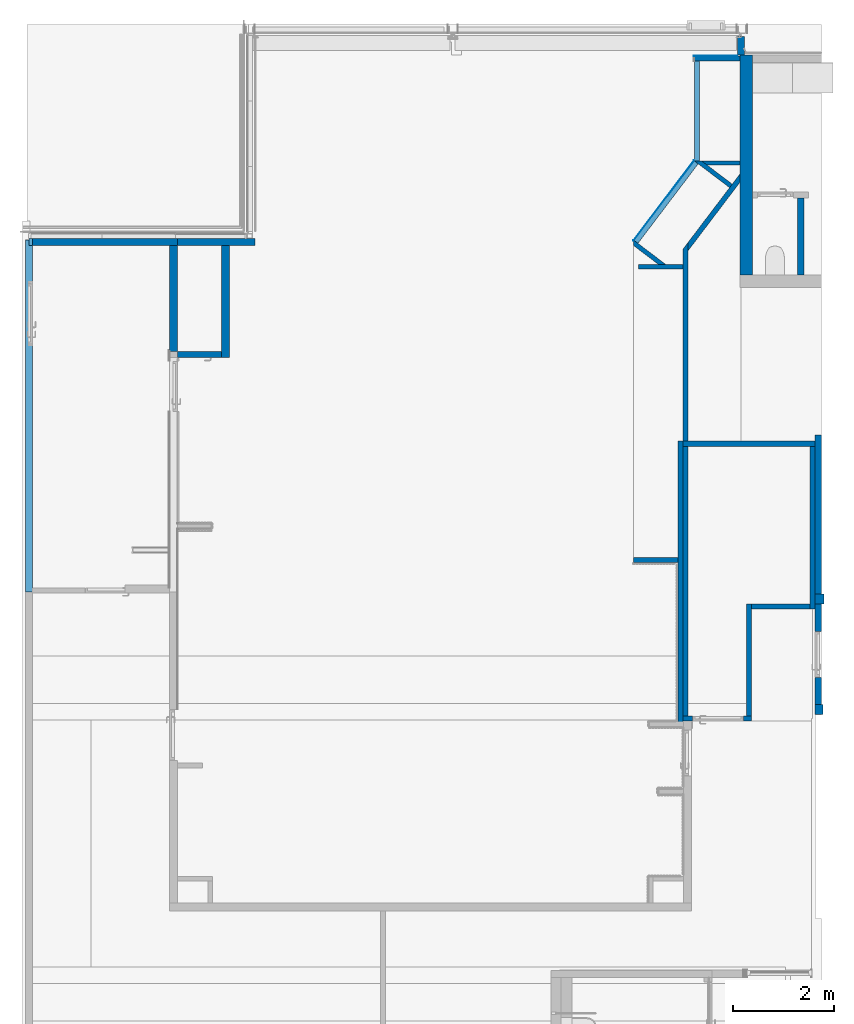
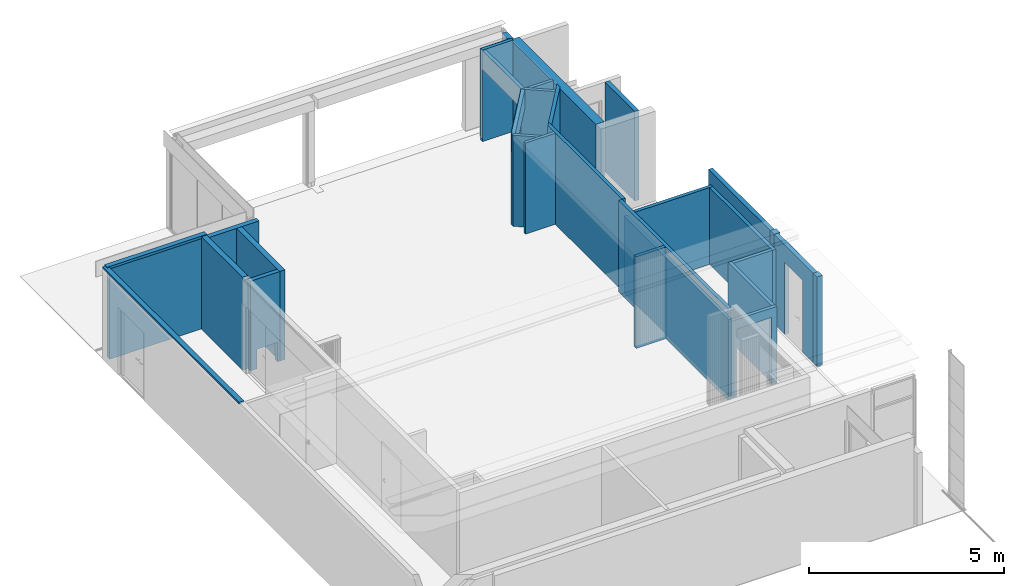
# One storey, part 24 of 37: 33 walls, 3 openings.
"""IFC2X3 building model written with IfcOpenShell, lengths in millimetres."""

from ifc_helpers import new_model, entity, si_unit, converted_unit, derived_unit, direction, frame, frame_2d, origin, origin_with_axes, place, context, subcontext, project, spatial, polyline, rectangle, outline, extrude, clip, halfspace, material, layer, layer_set, layer_usage, type_object, element, save


model = new_model("IFC2X3")

# Units and contexts
model_context = context("Model", 3, precision=0.01, world=frame((0.0, 4.29681676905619e-09, 0.0)), true_north=direction((4.01073788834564e-13, 1.0)))
plan_context = context("Plan", 3, precision=0.01, world=frame((0.0, 4.29681676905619e-09, 0.0)), true_north=direction((4.01073788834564e-13, 1.0)))
body_context = subcontext(model_context, "Body", "Model", "MODEL_VIEW")
ifc_project = project(units=[converted_unit("PLANEANGLEUNIT", "DEGREE", entity("IfcPositiveLengthMeasure", 0.0174532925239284), si_unit("PLANEANGLEUNIT", "RADIAN"), dimensions=[0, 0, 0, 0, 0, 0, 0]), si_unit("AREAUNIT", "SQUARE_METRE"), si_unit("LENGTHUNIT", "METRE", prefix="MILLI"), si_unit("MASSUNIT", "GRAM", prefix="KILO"), si_unit("POWERUNIT", "WATT"), si_unit("PRESSUREUNIT", "PASCAL"), si_unit("FORCEUNIT", "NEWTON", prefix="KILO"), si_unit("ELECTRICVOLTAGEUNIT", "VOLT"), si_unit("ELECTRICCURRENTUNIT", "AMPERE"), si_unit("THERMODYNAMICTEMPERATUREUNIT", "DEGREE_CELSIUS"), si_unit("TIMEUNIT", "SECOND"), si_unit("VOLUMEUNIT", "CUBIC_METRE"), derived_unit("LINEARVELOCITYUNIT", [(si_unit("LENGTHUNIT", "METRE"), 1), (si_unit("TIMEUNIT", "SECOND"), -1)]), derived_unit("VOLUMETRICFLOWRATEUNIT", [(si_unit("VOLUMEUNIT", "CUBIC_METRE"), 1), (si_unit("TIMEUNIT", "SECOND"), -1)]), derived_unit("THERMALTRANSMITTANCEUNIT", [(si_unit("POWERUNIT", "WATT"), 1), (si_unit("THERMODYNAMICTEMPERATUREUNIT", "KELVIN"), -1), (si_unit("AREAUNIT", "SQUARE_METRE"), -1)]), derived_unit("SOUNDPRESSUREUNIT", [(si_unit("PRESSUREUNIT", "PASCAL"), 1)])], contexts=[model_context, plan_context])

# Site, building, storey
site_placement = place(None, origin_with_axes())
site = spatial("IfcSite", under=ifc_project, at=site_placement, Name="ENGM", CompositionType="ELEMENT")
building_placement = place(site_placement, origin_with_axes())
building = spatial("IfcBuilding", under=site, at=building_placement, Name="TS", CompositionType="ELEMENT")
storey_placement = place(building_placement, frame((0.0, 0.0, 210900.0), z_axis=(0.0, 0.0, 1.0), x_axis=(1.0, 0.0, 0.0)))
storey = spatial("IfcBuildingStorey", under=building, at=storey_placement, Name="Nivå F", CompositionType="ELEMENT", Elevation=210900.0)

# Wall, opening
ifc_material_1 = material(Name="T2_Gips Protect F")
ifc_layer_1 = layer(ifc_material_1, 15.0)
ifc_material_2 = material(Name="_NSW Stålstender, uisolert")
ifc_layer_2 = layer(ifc_material_2, 100.0)
ifc_layer_3 = layer(ifc_material_1, 15.0)
ifc_layer_set_1 = layer_set([ifc_layer_1, ifc_layer_2, ifc_layer_3], Name="Basic Wall:A241 - FVF-100 (100/100 p-p)")
ifc_layer_usage_1 = layer_usage(ifc_layer_set_1, "AXIS2", "NEGATIVE", 65.0)
wall_type_1 = type_object("IfcWallType", Name="Basic Wall:A241 - FVF-100 (100/100 p-p)", PredefinedType="STANDARD", material=ifc_layer_set_1)
wall_1_placement = place(storey_placement, frame((536255.500000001, 450399.999999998, 0.0), z_axis=(0.0, 0.0, 1.0), x_axis=(0.0, -1.0, 0.0)))
wall_1 = element("IfcWallStandardCase", 1, at=wall_1_placement, inside=storey, type_object=wall_type_1, material=ifc_layer_usage_1, Name="Basic Wall:A241 - FVF-100 (100/100 p-p)", ObjectType="Basic Wall:A241 - FVF-100 (100/100 p-p)", context=body_context, shape_type="Clipping", body=[
    clip(extrude(rectangle(XDim=1999.99999999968, YDim=130.000000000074, at=frame_2d((999.999999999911, -3.08020275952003e-11), x_axis=(1.0, 0.0))), origin(), (0.0, 0.0, 1.0), 2799.99999999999), halfspace(origin(), True)),
])
opening_1_placement = place(wall_1_placement, frame((1456.18125000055, 65.0, 0.0), z_axis=(0.0, 0.0, 1.0), x_axis=(1.0, 0.0, 0.0)))
element("IfcOpeningElement", 2, at=opening_1_placement, cuts=wall_1, Name="A20 - Slagdør - Enkel:A243 - DI_SSO - 0890 x 2240 mm:1", ObjectType="Opening", context=body_context, shape_type="SweptSolid", body=[
    extrude(rectangle(XDim=2259.99999999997, YDim=910.0, at=frame_2d((1129.99999999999, 455.0), x_axis=(1.0, 0.0))), frame((0.0, 0.0, 0.0), z_axis=(0.0, -1.0, 0.0), x_axis=(0.0, 0.0, 1.0)), (0.0, 0.0, 1.0), 130.0),
])

# Walls
ifc_material_3 = material(Name="Plate - Gips")
ifc_layer_4 = layer(ifc_material_3, 12.5)
ifc_layer_5 = layer(ifc_material_3, 12.5)
ifc_layer_6 = layer(ifc_material_2, 200.0)
ifc_layer_7 = layer(ifc_material_3, 12.5)
ifc_layer_8 = layer(ifc_material_3, 12.5)
ifc_layer_set_2 = layer_set([ifc_layer_4, ifc_layer_5, ifc_layer_6, ifc_layer_7, ifc_layer_8], Name="Basic Wall:A241 - GSVS-50 (100/100x2 gg-gg)")
ifc_layer_usage_2 = layer_usage(ifc_layer_set_2, "AXIS2", "NEGATIVE", 125.0)
wall_type_2 = type_object("IfcWallType", Name="Basic Wall:A241 - GSVS-50 (100/100x2 gg-gg)", PredefinedType="STANDARD", material=ifc_layer_set_2)
wall_2_placement = place(storey_placement, frame((534821.999999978, 456932.300000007, 0.0), z_axis=(0.0, 0.0, 1.0), x_axis=(0.0, 1.0, 0.0)))
element("IfcWallStandardCase", 3, at=wall_2_placement, inside=storey, type_object=wall_type_2, material=ifc_layer_usage_2, Name="Basic Wall:A241 - GSVS-50 (100/100x2 gg-gg)", ObjectType="Basic Wall:A241 - GSVS-50 (100/100x2 gg-gg)", context=body_context, shape_type="Clipping", body=[
    clip(extrude(rectangle(XDim=4366.99999999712, YDim=249.999999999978, at=frame_2d((2183.49999999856, 1.44382283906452e-11), x_axis=(-1.0, 0.0))), origin(), (0.0, 0.0, 1.0), 2799.99999999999), halfspace(origin(), True)),
])
ifc_layer_9 = layer(ifc_material_3, 12.5)
ifc_layer_10 = layer(ifc_material_2, 100.0)
ifc_layer_11 = layer(ifc_material_3, 12.5)
ifc_layer_set_3 = layer_set([ifc_layer_9, ifc_layer_10, ifc_layer_11], Name="Basic Wall:A241 - GRVR-20 (100/100 r-r)")
ifc_layer_usage_3 = layer_usage(ifc_layer_set_3, "AXIS2", "NEGATIVE", 62.5)
wall_type_3 = type_object("IfcWallType", Name="Basic Wall:A241 - GRVR-20 (100/100 r-r)", PredefinedType="STANDARD", material=ifc_layer_set_3)
wall_3_placement = place(storey_placement, frame((535906.0, 456932.300000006, 0.0), z_axis=(0.0, 0.0, 1.0), x_axis=(0.0, 1.0, 0.0)))
element("IfcWallStandardCase", 4, at=wall_3_placement, inside=storey, type_object=wall_type_3, material=ifc_layer_usage_3, Name="Basic Wall:A241 - GRVR-20 (100/100 r-r)", ObjectType="Basic Wall:A241 - GRVR-20 (100/100 r-r)", context=body_context, shape_type="Clipping", body=[
    clip(extrude(rectangle(XDim=1520.50000000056, YDim=124.999999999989, at=frame_2d((760.250000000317, 2.56399346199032e-11), x_axis=(-1.0, 0.0))), origin(), (0.0, 0.0, 1.0), 2799.99999999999), halfspace(origin(), True)),
])
ifc_material_4 = material(Name="_NSW Gips-Lydplate")
ifc_layer_12 = layer(ifc_material_4, 15.0)
ifc_layer_13 = layer(ifc_material_2, 170.0)
ifc_layer_14 = layer(ifc_material_4, 15.0)
ifc_layer_set_4 = layer_set([ifc_layer_12, ifc_layer_13, ifc_layer_14], Name="Basic Wall:A241 - FVF-170 (170/170 p-p)")
ifc_layer_usage_4 = layer_usage(ifc_layer_set_4, "AXIS2", "NEGATIVE", 100.0)
wall_type_4 = type_object("IfcWallType", Name="Basic Wall:A241 - FVF-170 (170/170 p-p)", PredefinedType="STANDARD", material=ifc_layer_set_4)
wall_4_placement = place(storey_placement, frame((536367.850000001, 450499.999999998, 0.0), z_axis=(0.0, 0.0, 1.0), x_axis=(-1.0, 0.0, 0.0)))
element("IfcWallStandardCase", 5, at=wall_4_placement, inside=storey, type_object=wall_type_4, material=ifc_layer_usage_4, Name="Basic Wall:A241 - FVF-170 (170/170 p-p)", ObjectType="Basic Wall:A241 - FVF-170 (170/170 p-p)", context=body_context, shape_type="Clipping", body=[
    clip(extrude(rectangle(XDim=177.350000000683, YDim=200.000000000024, at=frame_2d((88.6750000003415, -4.36131131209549e-11), x_axis=(-1.0, 0.0))), origin(), (0.0, 0.0, 1.0), 2799.99999999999), halfspace(origin(), True)),
])
ifc_layer_usage_5 = layer_usage(ifc_layer_set_4, "AXIS2", "NEGATIVE", 100.0)
wall_5_placement = place(storey_placement, frame((536350.000000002, 448299.999999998, 0.0), z_axis=(0.0, 0.0, 1.0), x_axis=(-1.0, 0.0, 0.0)))
element("IfcWallStandardCase", 6, at=wall_5_placement, inside=storey, type_object=wall_type_4, material=ifc_layer_usage_5, Name="Basic Wall:A241 - FVF-170 (170/170 p-p)", ObjectType="Basic Wall:A241 - FVF-170 (170/170 p-p)", context=body_context, shape_type="Clipping", body=[
    clip(extrude(rectangle(XDim=159.500000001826, YDim=200.000000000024, at=frame_2d((79.7500000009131, -5.18198817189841e-11), x_axis=(-1.0, 0.0))), origin(), (0.0, 0.0, 1.0), 2799.99999999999), halfspace(origin(), True)),
])
ifc_layer_15 = layer(ifc_material_3, 12.5)
ifc_material_5 = material(Name="_NSW X-finer")
ifc_layer_16 = layer(ifc_material_5, 15.0)
ifc_material_6 = material(Name="_NSW Stålstender, isolert UTEN SKRAVUR")
ifc_layer_17 = layer(ifc_material_6, 100.0)
ifc_layer_18 = layer(ifc_material_5, 15.0)
ifc_layer_19 = layer(ifc_material_3, 12.5)
ifc_layer_set_5 = layer_set([ifc_layer_15, ifc_layer_16, ifc_layer_17, ifc_layer_18, ifc_layer_19], Name="Basic Wall:A241 - SXVXS-100")
ifc_layer_usage_6 = layer_usage(ifc_layer_set_5, "AXIS2", "NEGATIVE", 77.5)
wall_type_5 = type_object("IfcWallType", Name="Basic Wall:A241 - SXVXS-100", PredefinedType="STANDARD", material=ifc_layer_set_5)
wall_6_placement = place(storey_placement, frame((523457.000000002, 455414.840519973, 0.0), z_axis=(0.0, 0.0, 1.0), x_axis=(0.0, 1.0, 0.0)))
element("IfcWallStandardCase", 7, at=wall_6_placement, inside=storey, type_object=wall_type_5, material=ifc_layer_usage_6, Name="Basic Wall:A241 - SXVXS-100", ObjectType="Basic Wall:A241 - SXVXS-100", context=body_context, shape_type="SweptSolid", body=[
    extrude(rectangle(XDim=2096.33700861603, YDim=155.000000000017, at=frame_2d((1048.16850430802, 0.0), x_axis=(-1.0, 0.0))), origin(), (0.0, 0.0, 1.0), 2899.99999999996),
])
ifc_layer_20 = layer(ifc_material_3, 12.5)
ifc_layer_21 = layer(ifc_material_2, 100.0)
ifc_layer_22 = layer(ifc_material_3, 12.5)
ifc_layer_set_6 = layer_set([ifc_layer_20, ifc_layer_21, ifc_layer_22], Name="Basic Wall:A241 - RVR-100")
ifc_layer_usage_7 = layer_usage(ifc_layer_set_6, "AXIS2", "NEGATIVE", 62.5)
wall_type_6 = type_object("IfcWallType", Name="Basic Wall:A241 - RVR-100", PredefinedType="STANDARD", material=ifc_layer_set_6)
wall_7_placement = place(storey_placement, frame((536253.499999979, 453756.287499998, 10.0), z_axis=(0.0, 0.0, 1.0), x_axis=(0.0, -1.0, 0.0)))
element("IfcWallStandardCase", 8, at=wall_7_placement, inside=storey, type_object=wall_type_6, material=ifc_layer_usage_7, Name="Basic Wall:A241 - RVR-100", ObjectType="Basic Wall:A241 - RVR-100", context=body_context, shape_type="Clipping", body=[
    clip(extrude(rectangle(XDim=3156.28749999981, YDim=124.999999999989, at=frame_2d((1578.1437499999, 3.46496165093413e-11), x_axis=(-1.0, 0.0))), origin(), (0.0, 0.0, 1.0), 2789.99999999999), halfspace(origin(), True)),
])
ifc_layer_23 = layer(ifc_material_3, 12.5)
ifc_layer_24 = layer(ifc_material_5, 15.0)
ifc_layer_25 = layer(ifc_material_2, 100.0)
ifc_layer_26 = layer(ifc_material_3, 12.5)
ifc_layer_set_7 = layer_set([ifc_layer_23, ifc_layer_24, ifc_layer_25, ifc_layer_26], Name="Basic Wall:A241 - SXVS-100")
ifc_layer_usage_8 = layer_usage(ifc_layer_set_7, "AXIS2", "POSITIVE", -70.0)
wall_type_7 = type_object("IfcWallType", Name="Basic Wall:A241 - SXVS-100", PredefinedType="STANDARD", material=ifc_layer_set_7)
wall_8_placement = place(storey_placement, frame((523534.500000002, 457581.499999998, 22.0), z_axis=(0.0, 0.0, 1.0), x_axis=(-1.0, 0.0, 0.0)))
element("IfcWallStandardCase", 9, at=wall_8_placement, inside=storey, type_object=wall_type_7, material=ifc_layer_usage_8, Name="Basic Wall:A241 - SXVS-100", ObjectType="Basic Wall:A241 - SXVS-100", context=body_context, shape_type="SweptSolid", body=[
    extrude(rectangle(XDim=2878.50000000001, YDim=139.999999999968, at=frame_2d((1439.25000000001, 3.46531692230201e-11), x_axis=(-1.0, 0.0))), origin(), (0.0, 0.0, 1.0), 2821.0),
])
ifc_layer_usage_9 = layer_usage(ifc_layer_set_7, "AXIS2", "NEGATIVE", 70.0)
wall_9_placement = place(storey_placement, frame((523534.500000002, 457581.499999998, 22.0), z_axis=(0.0, 0.0, 1.0), x_axis=(1.0, 0.0, 0.0)))
element("IfcWallStandardCase", 10, at=wall_9_placement, inside=storey, type_object=wall_type_7, material=ifc_layer_usage_9, Name="Basic Wall:A241 - SXVS-100", ObjectType="Basic Wall:A241 - SXVS-100", context=body_context, shape_type="Clipping", body=[
    clip(extrude(rectangle(XDim=1540.25909142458, YDim=139.999999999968, at=frame_2d((770.129545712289, 3.46531692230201e-11), x_axis=(-1.0, 0.0))), origin(), (0.0, 0.0, 1.0), 2777.99999999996), halfspace(origin(), True)),
])
ifc_layer_usage_10 = layer_usage(ifc_layer_set_7, "AXIS2", "NEGATIVE", 70.0)
wall_10_placement = place(storey_placement, frame((520586.000000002, 457623.999999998, 2843.0), z_axis=(0.0, 0.0, 1.0), x_axis=(0.0, -1.0, 0.0)))
element("IfcWallStandardCase", 11, at=wall_10_placement, inside=storey, type_object=wall_type_7, material=ifc_layer_usage_10, Name="Basic Wall:A241 - SXVS-100", ObjectType="Basic Wall:A241 - SXVS-100", context=body_context, shape_type="SweptSolid", body=[
    extrude(rectangle(XDim=6991.44175888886, YDim=139.999999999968, at=frame_2d((3495.72087944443, 3.46531692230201e-11), x_axis=(-1.0, 0.0))), origin(), (0.0, 0.0, 1.0), 57.0000000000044),
])
ifc_layer_usage_11 = layer_usage(ifc_layer_set_7, "AXIS2", "POSITIVE", -70.0)
wall_11_placement = place(storey_placement, frame((523534.500000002, 457581.499999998, 2843.0), z_axis=(0.0, 0.0, 1.0), x_axis=(-1.0, 0.0, 0.0)))
element("IfcWallStandardCase", 12, at=wall_11_placement, inside=storey, type_object=wall_type_7, material=ifc_layer_usage_11, Name="Basic Wall:A241 - SXVS-100", ObjectType="Basic Wall:A241 - SXVS-100", context=body_context, shape_type="SweptSolid", body=[
    extrude(rectangle(XDim=2948.50000000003, YDim=139.999999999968, at=frame_2d((1474.25000000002, 3.46531692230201e-11), x_axis=(-1.0, 0.0))), origin(), (0.0, 0.0, 1.0), 78.9999999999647),
])
ifc_material_7 = material(Name="T2_Gips Fibergips")
ifc_layer_27 = layer(ifc_material_7, 13.0)
ifc_material_8 = material(Name="T2 - Kryssfiner")
ifc_layer_28 = layer(ifc_material_8, 15.0)
ifc_layer_29 = layer(ifc_material_2, 100.0)
ifc_layer_30 = layer(ifc_material_8, 15.0)
ifc_layer_31 = layer(ifc_material_7, 13.0)
ifc_layer_set_8 = layer_set([ifc_layer_27, ifc_layer_28, ifc_layer_29, ifc_layer_30, ifc_layer_31], Name="Basic Wall:A241 - RXVXR-100")
ifc_layer_usage_12 = layer_usage(ifc_layer_set_8, "AXIS2", "NEGATIVE", 78.0)
wall_type_8 = type_object("IfcWallType", Name="Basic Wall:A241 - RXVXR-100", PredefinedType="STANDARD", material=ifc_layer_set_8)
wall_12_placement = place(storey_placement, frame((524489.933479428, 455290.840519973, 0.0), z_axis=(0.0, 0.0, 1.0), x_axis=(0.0, 1.0, 0.0)))
element("IfcWallStandardCase", 13, at=wall_12_placement, inside=storey, type_object=wall_type_8, material=ifc_layer_usage_12, Name="Basic Wall:A241 - RXVXR-100", ObjectType="Basic Wall:A241 - RXVXR-100", context=body_context, shape_type="Clipping", body=[
    clip(extrude(rectangle(XDim=2220.65948002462, YDim=156.000000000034, at=frame_2d((1110.32974001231, 0.0), x_axis=(-1.0, 0.0))), origin(), (0.0, 0.0, 1.0), 2799.99999999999), halfspace(origin(), True)),
])
ifc_material_9 = material(Name="T2_Fibersement")
ifc_layer_32 = layer(ifc_material_9, 15.0)
ifc_layer_33 = layer(ifc_material_2, 100.0)
ifc_material_10 = material(Name="T2_X-finer")
ifc_layer_34 = layer(ifc_material_10, 12.0)
ifc_layer_35 = layer(ifc_material_9, 15.0)
ifc_layer_set_9 = layer_set([ifc_layer_32, ifc_layer_33, ifc_layer_34, ifc_layer_35], Name="Basic Wall:A241 - V2")
ifc_layer_usage_13 = layer_usage(ifc_layer_set_9, "AXIS2", "NEGATIVE", 71.0)
wall_type_9 = type_object("IfcWallType", Name="Basic Wall:A241 - V2", PredefinedType="STANDARD", material=ifc_layer_set_9)
wall_13_placement = place(storey_placement, frame((534717.999999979, 461659.499999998, 0.0), z_axis=(0.0, 0.0, 1.0), x_axis=(0.0, -1.0, 0.0)))
element("IfcWallStandardCase", 14, at=wall_13_placement, inside=storey, type_object=wall_type_9, material=ifc_layer_usage_13, Name="Basic Wall:A241 - V2", ObjectType="Basic Wall:A241 - V2", context=body_context, shape_type="Clipping", body=[
    clip(extrude(rectangle(XDim=360.199999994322, YDim=142.000000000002, at=frame_2d((180.099999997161, -3.46531692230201e-11), x_axis=(-1.0, 0.0))), origin(), (0.0, 0.0, 1.0), 2799.99999999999), halfspace(origin(), True)),
])
ifc_material_11 = material(Name="Kjølevegg")
ifc_layer_36 = layer(ifc_material_11, 100.0)
ifc_layer_set_10 = layer_set([ifc_layer_36], Name="Basic Wall:A241 - KJØLEVEGG-100MM")
ifc_layer_usage_14 = layer_usage(ifc_layer_set_10, "AXIS2", "POSITIVE", -50.0)
wall_type_10 = type_object("IfcWallType", Name="Basic Wall:A241 - KJØLEVEGG-100MM", PredefinedType="STANDARD", material=ifc_layer_set_10)
wall_14_placement = place(storey_placement, frame((533615.499999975, 448176.999999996, 0.0), z_axis=(0.0, 0.0, 1.0), x_axis=(0.0, 1.0, 0.0)))
element("IfcWallStandardCase", 15, at=wall_14_placement, inside=storey, type_object=wall_type_10, material=ifc_layer_usage_14, Name="Basic Wall:A241 - KJØLEVEGG-100MM", ObjectType="Basic Wall:A241 - KJØLEVEGG-100MM", context=body_context, shape_type="SweptSolid", body=[
    extrude(rectangle(XDim=5352.28750000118, YDim=99.9999999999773, at=frame_2d((2676.14375000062, 3.46531692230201e-11), x_axis=(-1.0, 0.0))), origin(), (0.0, 0.0, 1.0), 2400.00000000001),
])

# Wall, opening
ifc_layer_usage_15 = layer_usage(ifc_layer_set_10, "AXIS2", "POSITIVE", -50.0)
wall_15_placement = place(storey_placement, frame((534930.5, 448126.999999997, 0.0), z_axis=(0.0, 0.0, 1.0), x_axis=(-1.0, 0.0, 0.0)))
wall_15 = element("IfcWallStandardCase", 16, at=wall_15_placement, inside=storey, type_object=wall_type_10, material=ifc_layer_usage_15, Name="Basic Wall:A241 - KJØLEVEGG-100MM", ObjectType="Basic Wall:A241 - KJØLEVEGG-100MM", context=body_context, shape_type="SweptSolid", body=[
    extrude(rectangle(XDim=1365.00000002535, YDim=99.9999999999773, at=frame_2d((682.500000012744, 1.48823176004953e-11), x_axis=(1.0, 0.0))), origin(), (0.0, 0.0, 1.0), 2400.00000000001),
])
opening_2_placement = place(wall_15_placement, frame((162.500000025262, -50.0, 0.0), z_axis=(0.0, 0.0, 1.0), x_axis=(1.0, 0.0, 0.0)))
element("IfcOpeningElement", 17, at=opening_2_placement, cuts=wall_15, Name="A20 - Slagdør - Enkel2:A243 - DI_LTO - 0990 x 2090 mm:1", ObjectType="Opening", context=body_context, shape_type="SweptSolid", body=[
    extrude(rectangle(XDim=2109.99999999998, YDim=1010.0, at=frame_2d((1054.99999999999, 505.000000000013), x_axis=(1.0, 0.0))), frame((0.0, 0.0, 0.0), z_axis=(0.0, 1.0, 0.0), x_axis=(0.0, 0.0, 1.0)), (0.0, 0.0, 1.0), 100.0),
])

# Walls
ifc_layer_usage_16 = layer_usage(ifc_layer_set_10, "AXIS2", "POSITIVE", -50.0)
wall_16_placement = place(storey_placement, frame((536140.999999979, 453529.287499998, 0.0), z_axis=(0.0, 0.0, 1.0), x_axis=(0.0, -1.0, 0.0)))
element("IfcWallStandardCase", 18, at=wall_16_placement, inside=storey, type_object=wall_type_10, material=ifc_layer_usage_16, Name="Basic Wall:A241 - KJØLEVEGG-100MM", ObjectType="Basic Wall:A241 - KJØLEVEGG-100MM", context=body_context, shape_type="SweptSolid", body=[
    extrude(rectangle(XDim=3229.28750000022, YDim=99.9999999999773, at=frame_2d((1614.64375000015, 4.07709421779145e-11), x_axis=(-1.0, 0.0))), origin(), (0.0, 0.0, 1.0), 2400.00000000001),
])
ifc_layer_usage_17 = layer_usage(ifc_layer_set_10, "AXIS2", "POSITIVE", -50.0)
wall_17_placement = place(storey_placement, frame((536190.999999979, 453579.287499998, 0.0), z_axis=(0.0, 0.0, 1.0), x_axis=(-1.0, 0.0, 0.0)))
element("IfcWallStandardCase", 19, at=wall_17_placement, inside=storey, type_object=wall_type_10, material=ifc_layer_usage_17, Name="Basic Wall:A241 - KJØLEVEGG-100MM", ObjectType="Basic Wall:A241 - KJØLEVEGG-100MM", context=body_context, shape_type="SweptSolid", body=[
    extrude(rectangle(XDim=2625.50000000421, YDim=100.000000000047, at=frame_2d((1312.75000000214, 1.51949564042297e-11), x_axis=(-1.0, 0.0))), origin(), (0.0, 0.0, 1.0), 2400.00000000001),
])
ifc_layer_usage_18 = layer_usage(ifc_layer_set_10, "AXIS2", "POSITIVE", -50.0)
wall_18_placement = place(storey_placement, frame((534880.499999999, 450399.999999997, 0.0), z_axis=(0.0, 0.0, 1.0), x_axis=(0.0, -1.0, 0.0)))
element("IfcWallStandardCase", 20, at=wall_18_placement, inside=storey, type_object=wall_type_10, material=ifc_layer_usage_18, Name="Basic Wall:A241 - KJØLEVEGG-100MM", ObjectType="Basic Wall:A241 - KJØLEVEGG-100MM", context=body_context, shape_type="SweptSolid", body=[
    extrude(rectangle(XDim=2223.00000000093, YDim=99.999999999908, at=frame_2d((1111.50000000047, 1.05419672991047e-10), x_axis=(-1.0, 0.0))), origin(), (0.0, 0.0, 1.0), 2400.00000000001),
])
ifc_layer_usage_19 = layer_usage(ifc_layer_set_10, "AXIS2", "POSITIVE", -50.0)
wall_19_placement = place(storey_placement, frame((536090.99999998, 450349.999999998, 0.0), z_axis=(0.0, 0.0, 1.0), x_axis=(-1.0, 0.0, 0.0)))
element("IfcWallStandardCase", 21, at=wall_19_placement, inside=storey, type_object=wall_type_10, material=ifc_layer_usage_19, Name="Basic Wall:A241 - KJØLEVEGG-100MM", ObjectType="Basic Wall:A241 - KJØLEVEGG-100MM", context=body_context, shape_type="SweptSolid", body=[
    extrude(rectangle(XDim=1160.4999999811, YDim=99.9999999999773, at=frame_2d((580.249999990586, 5.41824363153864e-11), x_axis=(-1.0, 0.0))), origin(), (0.0, 0.0, 1.0), 2400.00000000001),
])
ifc_layer_37 = layer(ifc_material_3, 12.5)
ifc_layer_38 = layer(ifc_material_2, 75.0)
ifc_layer_set_11 = layer_set([ifc_layer_37, ifc_layer_38], Name="Basic Wall:A241 - RV-75")
ifc_layer_usage_20 = layer_usage(ifc_layer_set_11, "AXIS2", "NEGATIVE", 43.75)
wall_type_11 = type_object("IfcWallType", Name="Basic Wall:A241 - RV-75", PredefinedType="STANDARD", material=ifc_layer_set_11)
wall_20_placement = place(storey_placement, frame((533565.499999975, 457094.096287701, 0.0), z_axis=(0.0, 0.0, 1.0), x_axis=(-1.0, 0.0, 0.0)))
element("IfcWallStandardCase", 22, at=wall_20_placement, inside=storey, type_object=wall_type_11, material=ifc_layer_usage_20, Name="Basic Wall:A241 - RV-75", ObjectType="Basic Wall:A241 - RV-75", context=body_context, shape_type="SweptSolid", body=[
    extrude(rectangle(XDim=878.626039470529, YDim=87.4999999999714, at=frame_2d((439.313019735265, 3.46496165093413e-11), x_axis=(-1.0, 0.0))), origin(), (0.0, 0.0, 1.0), 2847.49999999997),
])
ifc_layer_usage_21 = layer_usage(ifc_layer_set_11, "AXIS2", "NEGATIVE", 43.75)
wall_21_placement = place(storey_placement, frame((532560.441163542, 457588.749950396, 0.0), z_axis=(0.0, 0.0, 1.0), x_axis=(0.796849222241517, -0.604178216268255, 0.0)))
element("IfcWallStandardCase", 23, at=wall_21_placement, inside=storey, type_object=wall_type_11, material=ifc_layer_usage_21, Name="Basic Wall:A241 - RV-75", ObjectType="Basic Wall:A241 - RV-75", context=body_context, shape_type="SweptSolid", body=[
    extrude(outline(polyline([(688.607265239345, -43.7500000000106), (804.010808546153, 43.7500000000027), (0.0, 43.7500000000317), (66.3432835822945, -43.7500000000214), (688.607265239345, -43.7500000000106)])), origin(), (0.0, 0.0, 1.0), 2847.49999999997),
])
ifc_layer_usage_22 = layer_usage(ifc_layer_set_11, "AXIS2", "POSITIVE", -43.75)
wall_22_placement = place(storey_placement, frame((533817.985704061, 459229.862153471, 0.0), z_axis=(0.0, 0.0, 1.0), x_axis=(0.796849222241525, -0.604178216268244, 0.0)))
element("IfcWallStandardCase", 24, at=wall_22_placement, inside=storey, type_object=wall_type_11, material=ifc_layer_usage_22, Name="Basic Wall:A241 - RV-75", ObjectType="Basic Wall:A241 - RV-75", context=body_context, shape_type="SweptSolid", body=[
    extrude(outline(polyline([(881.71313186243, -43.7499999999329), (881.713131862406, 43.7500000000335), (260.228360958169, 43.7500000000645), (115.403543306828, 43.7500000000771), (0.0, -43.7499999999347), (881.71313186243, -43.7499999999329)])), origin(), (0.0, 0.0, 1.0), 2847.49999999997),
])
ifc_layer_usage_23 = layer_usage(ifc_layer_set_11, "AXIS2", "NEGATIVE", 43.75)
wall_23_placement = place(storey_placement, frame((533936.377724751, 459151.249999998, 0.0), z_axis=(0.0, 0.0, 1.0), x_axis=(1.0, 0.0, 0.0)))
element("IfcWallStandardCase", 25, at=wall_23_placement, inside=storey, type_object=wall_type_11, material=ifc_layer_usage_23, Name="Basic Wall:A241 - RV-75", ObjectType="Basic Wall:A241 - RV-75", context=body_context, shape_type="SweptSolid", body=[
    extrude(outline(polyline([(760.622275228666, -43.7499999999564), (760.622275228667, 43.750000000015), (0.0, 43.7500000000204), (115.403543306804, -43.7499999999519), (760.622275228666, -43.7499999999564)])), origin(), (0.0, 0.0, 1.0), 2847.49999999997),
])
ifc_layer_39 = layer(ifc_material_3, 12.5)
ifc_layer_40 = layer(ifc_material_2, 75.0)
ifc_layer_41 = layer(ifc_material_3, 12.5)
ifc_layer_set_12 = layer_set([ifc_layer_39, ifc_layer_40, ifc_layer_41], Name="Basic Wall:A241 - RVR-75.2")
ifc_layer_usage_24 = layer_usage(ifc_layer_set_12, "AXIS2", "NEGATIVE", 50.0)
wall_type_12 = type_object("IfcWallType", Name="Basic Wall:A241 - RVR-75.2", PredefinedType="STANDARD", material=ifc_layer_set_12)
wall_24_placement = place(storey_placement, frame((533465.499999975, 451270.346287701, 0.0), z_axis=(0.0, 0.0, 1.0), x_axis=(-1.0, 0.0, 0.0)))
element("IfcWallStandardCase", 26, at=wall_24_placement, inside=storey, type_object=wall_type_12, material=ifc_layer_usage_24, Name="Basic Wall:A241 - RVR-75.2", ObjectType="Basic Wall:A241 - RVR-75.2", context=body_context, shape_type="SweptSolid", body=[
    extrude(rectangle(XDim=878.626039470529, YDim=99.9999999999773, at=frame_2d((439.313019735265, 3.46531692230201e-11), x_axis=(-1.0, 0.0))), origin(), (0.0, 0.0, 1.0), 2859.99999999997),
])
ifc_layer_usage_25 = layer_usage(ifc_layer_set_12, "AXIS2", "NEGATIVE", 50.0)
wall_25_placement = place(storey_placement, frame((533797.060848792, 461224.999999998, 0.0), z_axis=(0.0, 0.0, 1.0), x_axis=(1.0, 0.0, 0.0)))
element("IfcWallStandardCase", 27, at=wall_25_placement, inside=storey, type_object=wall_type_12, material=ifc_layer_usage_25, Name="Basic Wall:A241 - RVR-75.2", ObjectType="Basic Wall:A241 - RVR-75.2", context=body_context, shape_type="SweptSolid", body=[
    extrude(rectangle(XDim=899.939151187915, YDim=99.9999999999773, at=frame_2d((449.969575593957, 3.46531692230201e-11), x_axis=(-1.0, 0.0))), origin(), (0.0, 0.0, 1.0), 2859.99999999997),
])

# Wall, opening
ifc_material_12 = material(Name="T2_Gips Robust")
ifc_layer_42 = layer(ifc_material_12, 12.5)
ifc_layer_43 = layer(ifc_material_8, 12.0)
ifc_material_13 = material(Name="_NSW Isolasjon")
ifc_layer_44 = layer(ifc_material_13, 75.0)
ifc_layer_45 = layer(ifc_material_8, 12.0)
ifc_layer_46 = layer(ifc_material_12, 12.5)
ifc_layer_set_13 = layer_set([ifc_layer_42, ifc_layer_43, ifc_layer_44, ifc_layer_45, ifc_layer_46], Name="Basic Wall:A241 - RXVXR-75")
ifc_layer_usage_26 = layer_usage(ifc_layer_set_13, "AXIS2", "NEGATIVE", 62.0)
wall_type_13 = type_object("IfcWallType", Name="Basic Wall:A241 - RXVXR-75", PredefinedType="STANDARD", material=ifc_layer_set_13)
wall_26_placement = place(storey_placement, frame((523534.500000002, 455352.840519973, 0.0), z_axis=(0.0, 0.0, 1.0), x_axis=(1.0, 0.0, 0.0)))
wall_26 = element("IfcWallStandardCase", 28, at=wall_26_placement, inside=storey, type_object=wall_type_13, material=ifc_layer_usage_26, Name="Basic Wall:A241 - RXVXR-75", ObjectType="Basic Wall:A241 - RXVXR-75", context=body_context, shape_type="Clipping", body=[
    clip(extrude(rectangle(XDim=877.433479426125, YDim=123.999999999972, at=frame_2d((438.716739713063, 3.46496165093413e-11), x_axis=(1.0, 0.0))), origin(), (0.0, 0.0, 1.0), 2799.99999999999), halfspace(origin(), True)),
])
opening_3_placement = place(wall_26_placement, frame((807.433479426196, 62.0, 0.0), z_axis=(0.0, 0.0, 1.0), x_axis=(1.0, 0.0, 0.0)))
element("IfcOpeningElement", 29, at=opening_3_placement, cuts=wall_26, Name="A20 - Slagdør - Enkel:A243 - DI_LTO - 0590 x 0590 mm:1", ObjectType="Opening", context=body_context, shape_type="SweptSolid", body=[
    extrude(rectangle(XDim=609.999999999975, YDim=610.0, at=frame_2d((304.999999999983, 305.0), x_axis=(1.0, 0.0))), frame((0.0, 0.0, 0.0), z_axis=(0.0, -1.0, 0.0), x_axis=(0.0, 0.0, 1.0)), (0.0, 0.0, 1.0), 124.0),
])

# Walls
ifc_layer_47 = layer(ifc_material_7, 13.0)
ifc_layer_48 = layer(ifc_material_8, 12.0)
ifc_layer_49 = layer(ifc_material_13, 75.0)
ifc_layer_set_14 = layer_set([ifc_layer_47, ifc_layer_48, ifc_layer_49], Name="Basic Wall:A241 - RXV-75")
ifc_layer_usage_27 = layer_usage(ifc_layer_set_14, "AXIS2", "NEGATIVE", 50.0)
wall_type_14 = type_object("IfcWallType", Name="Basic Wall:A241 - RXV-75", PredefinedType="STANDARD", material=ifc_layer_set_14)
wall_27_placement = place(storey_placement, frame((532635.604268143, 457587.665032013, 2260.0), z_axis=(0.0, 0.0, 1.0), x_axis=(0.604178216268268, 0.796849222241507, 0.0)))
element("IfcWallStandardCase", 30, at=wall_27_placement, inside=storey, type_object=wall_type_14, material=ifc_layer_usage_27, Name="Basic Wall:A241 - RXV-75", ObjectType="Basic Wall:A241 - RXV-75", context=body_context, shape_type="SweptSolid", body=[
    extrude(rectangle(XDim=2003.02966194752, YDim=99.9999999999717, at=frame_2d((1001.51483097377, 5.87405679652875e-11), x_axis=(-1.0, 0.0))), origin(), (0.0, 0.0, 1.0), 587.499999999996),
])
ifc_layer_usage_28 = layer_usage(ifc_layer_set_14, "AXIS2", "NEGATIVE", 50.0)
wall_28_placement = place(storey_placement, frame((533847.060848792, 459187.553774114, 2260.0), z_axis=(0.0, 0.0, 1.0), x_axis=(0.0, 1.0, 0.0)))
element("IfcWallStandardCase", 31, at=wall_28_placement, inside=storey, type_object=wall_type_14, material=ifc_layer_usage_28, Name="Basic Wall:A241 - RXV-75", ObjectType="Basic Wall:A241 - RXV-75", context=body_context, shape_type="SweptSolid", body=[
    extrude(rectangle(XDim=1987.44622588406, YDim=99.9999999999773, at=frame_2d((993.723112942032, 3.46531692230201e-11), x_axis=(-1.0, 0.0))), origin(), (0.0, 0.0, 1.0), 587.499999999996),
])
ifc_layer_usage_29 = layer_usage(ifc_layer_set_14, "AXIS2", "POSITIVE", -50.0)
wall_29_placement = place(storey_placement, frame((533615.499999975, 457569.389763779, 0.0), z_axis=(0.0, 0.0, 1.0), x_axis=(0.0, -1.0, 0.0)))
element("IfcWallStandardCase", 32, at=wall_29_placement, inside=storey, type_object=wall_type_14, material=ifc_layer_usage_29, Name="Basic Wall:A241 - RXV-75", ObjectType="Basic Wall:A241 - RXV-75", context=body_context, shape_type="SweptSolid", body=[
    extrude(outline(polyline([(3940.10226378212, -50.0), (3940.10226378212, 50.0), (165.514077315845, 50.0), (0.0, 50.0), (131.889763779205, -50.0), (431.543476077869, -50.0), (519.043476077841, -50.0), (3940.10226378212, -50.0)])), origin(), (0.0, 0.0, 1.0), 2859.99999999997),
])
ifc_layer_usage_30 = layer_usage(ifc_layer_set_14, "AXIS2", "POSITIVE", -50.0)
wall_30_placement = place(storey_placement, frame((534736.842461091, 458899.623766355, 0.0), z_axis=(0.0, 0.0, 1.0), x_axis=(-0.604178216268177, -0.796849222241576, 0.0)))
element("IfcWallStandardCase", 33, at=wall_30_placement, inside=storey, type_object=wall_type_14, material=ifc_layer_usage_30, Name="Basic Wall:A241 - RXV-75", ObjectType="Basic Wall:A241 - RXV-75", context=body_context, shape_type="SweptSolid", body=[
    extrude(outline(polyline([(1707.27770752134, -50.0), (1839.16747130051, 50.0), (131.889763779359, 50.0), (0.0, -50.0), (1707.27770752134, -50.0)])), origin(), (0.0, 0.0, 1.0), 2859.99999999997),
])
ifc_layer_usage_31 = layer_usage(ifc_layer_set_14, "AXIS2", "POSITIVE", -50.0)
wall_31_placement = place(storey_placement, frame((533515.499999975, 453629.287499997, 0.0), z_axis=(0.0, 0.0, 1.0), x_axis=(0.0, -1.0, 0.0)))
element("IfcWallStandardCase", 34, at=wall_31_placement, inside=storey, type_object=wall_type_14, material=ifc_layer_usage_31, Name="Basic Wall:A241 - RXV-75", ObjectType="Basic Wall:A241 - RXV-75", context=body_context, shape_type="SweptSolid", body=[
    extrude(rectangle(XDim=5580.44121229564, YDim=99.9999999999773, at=frame_2d((2790.22060614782, 3.46531692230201e-11), x_axis=(-1.0, 0.0))), origin(), (0.0, 0.0, 1.0), 2859.99999999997),
])
ifc_material_14 = material(Name="T2 - Flisvegg 200x100")
ifc_layer_50 = layer(ifc_material_14, 10.0)
ifc_layer_set_15 = layer_set([ifc_layer_50], Name="Basic Wall:A231 - KL-K03 Metro Flis 10mm")
ifc_layer_usage_32 = layer_usage(ifc_layer_set_15, "AXIS2", "POSITIVE", -5.0)
wall_type_15 = type_object("IfcWallType", Name="Basic Wall:A231 - KL-K03 Metro Flis 10mm", PredefinedType="STANDARD", material=ifc_layer_set_15)
wall_32_placement = place(storey_placement, frame((532582.889714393, 457609.172674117, 2259.27078703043), z_axis=(0.0, 0.0, 1.0), x_axis=(0.604178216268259, 0.796849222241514, 0.0)))
element("IfcWallStandardCase", 35, at=wall_32_placement, inside=storey, type_object=wall_type_15, material=ifc_layer_usage_32, Name="Basic Wall:A231 - KL-K03 Metro Flis 10mm", ObjectType="Basic Wall:A231 - KL-K03 Metro Flis 10mm", context=body_context, shape_type="SweptSolid", body=[
    extrude(outline(polyline([(1986.47825421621, -5.0), (1999.66723059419, 5.0), (13.1889763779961, 5.0), (0.0, -5.0), (1986.47825421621, -5.0)])), origin(), (0.0, 0.0, 1.0), 600.729212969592),
])
ifc_layer_usage_33 = layer_usage(ifc_layer_set_15, "AXIS2", "NEGATIVE", 5.0)
wall_33_placement = place(storey_placement, frame((533787.060848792, 461279.999999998, 100.0), z_axis=(0.0, 0.0, 1.0), x_axis=(1.0, 0.0, 0.0)))
element("IfcWallStandardCase", 36, at=wall_33_placement, inside=storey, type_object=wall_type_15, material=ifc_layer_usage_33, Name="Basic Wall:A231 - KL-K03 Metro Flis 10mm", ObjectType="Basic Wall:A231 - KL-K03 Metro Flis 10mm", context=body_context, shape_type="SweptSolid", body=[
    extrude(rectangle(XDim=859.939151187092, YDim=10.0000000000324, at=frame_2d((429.969575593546, 0.0), x_axis=(-1.0, 0.0))), origin(), (0.0, 0.0, 1.0), 2760.0),
])

save(model, "model.ifc")
